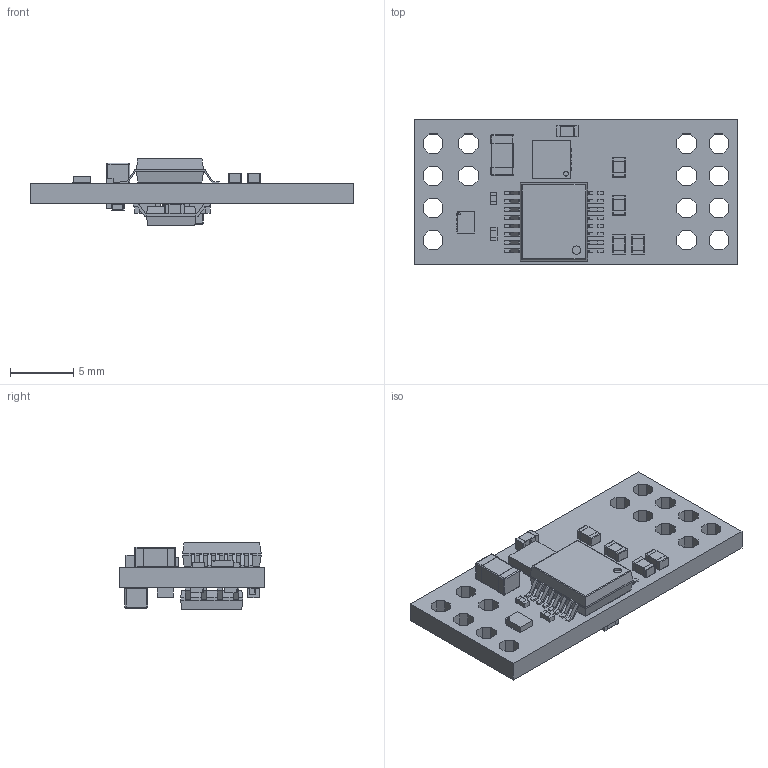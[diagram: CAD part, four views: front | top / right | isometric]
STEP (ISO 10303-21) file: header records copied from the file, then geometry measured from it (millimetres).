
FILE_DESCRIPTION(/* description */ (''),/* implementation_level */ '2;1');
FILE_NAME(/* name */ 'C:\Releases\Serial\Serial- 1.0.0_website\hw_Serial - BASIC - dummy.stp',/* time_stamp */ '2024-02-22T14:21:11+01:00',/* author */ ('jbs3'),/* organization */ (''),/* preprocessor_version */ 'ST-DEVELOPER v17',/* originating_system */ 'Autodesk Inventor 2018',/* authorisation */ '');
FILE_SCHEMA (('AUTOMOTIVE_DESIGN { 1 0 10303 214 3 1 1 }'));
Length unit declared in the file: millimetre
Products named in the file (1): 000 Ensamblaje hw_Serial - BASIC_Substitute_1
Bounding box: 25.5 x 11.5 x 5.35 mm (x, y, z)
Volume: 556.5 mm3; surface area: 1142.3 mm2
Topology: 33 solids, 33 shells, 1173 faces, 2977 edges, 1814 vertices
Faces by surface type: plane 797, cylinder 296, sphere 80
Full cylindrical faces by diameter (mm): 0.169 x1, 0.375 x1, 0.487 x1, 0.662 x1
Entity records: 35601 total; most frequent: CARTESIAN_POINT 6125, DIRECTION 5813, ORIENTED_EDGE 5794, EDGE_CURVE 2897, LINE 2297, VECTOR 2297, VERTEX_POINT 1814, AXIS2_PLACEMENT_3D 1758
